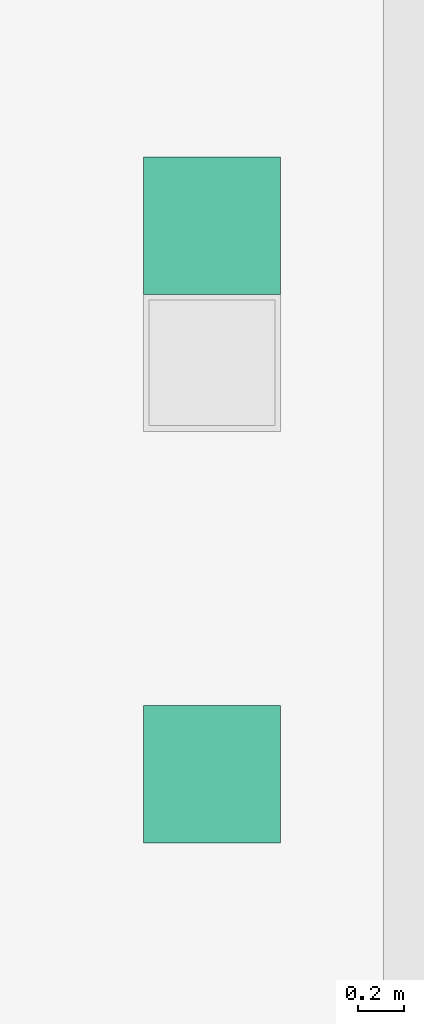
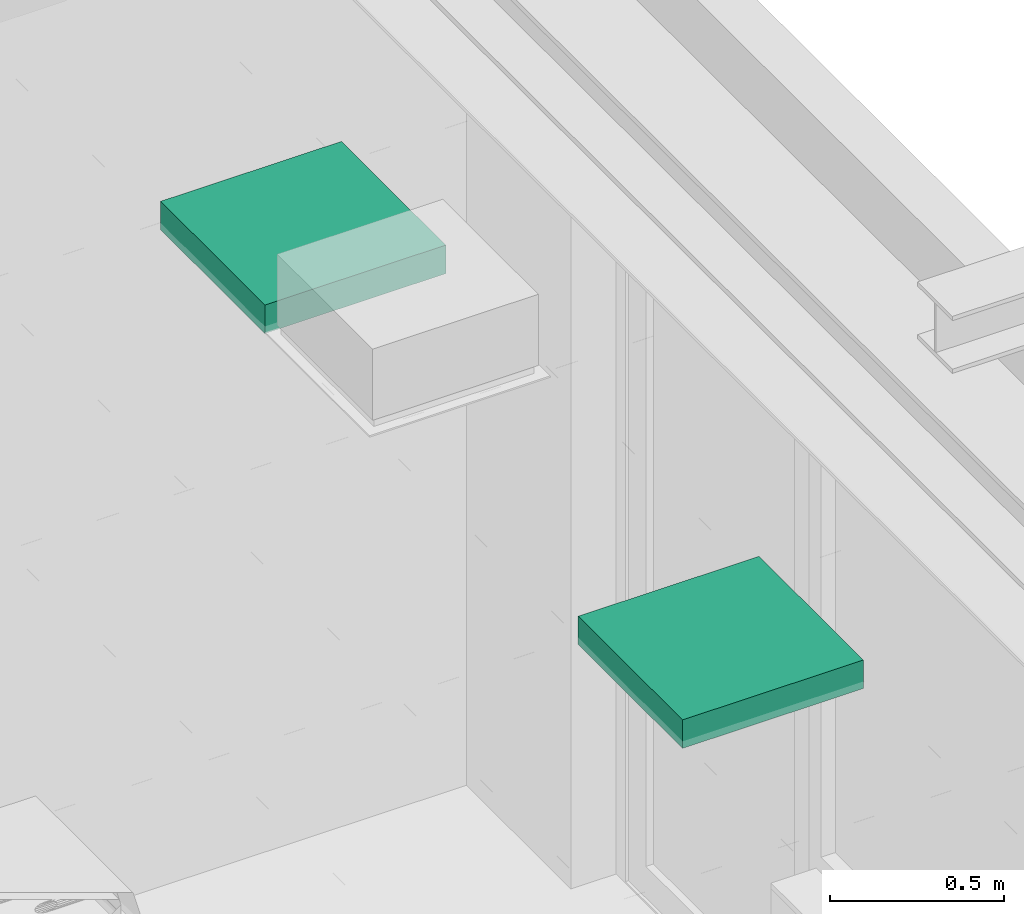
# One storey, part 271 of 347: 2 flow terminals.
"""IFC2X3 building model written with IfcOpenShell, lengths in millimetres."""

from ifc_helpers import new_model, entity, si_unit, converted_unit, derived_unit, money_unit, direction, frame, origin_with_axes, place, context, subcontext, project, spatial, open_shell, faceted_brep, surface_model, source, transform, mapped, type_object, type_shapes, element, save


model = new_model("IFC2X3")

# Units and contexts
model_context = context("Model", 3, precision=0.01, world=origin_with_axes(), true_north=direction((0.0, 1.0)))
plan_context = context("Plan", 3, precision=0.01, world=origin_with_axes(), true_north=direction((0.0, 1.0)))
body_context = subcontext(model_context, "Body", "Model", "MODEL_VIEW")
ifc_project = project(units=[si_unit("LENGTHUNIT", "METRE", prefix="MILLI"), si_unit("AREAUNIT", "SQUARE_METRE"), si_unit("VOLUMEUNIT", "CUBIC_METRE"), converted_unit("PLANEANGLEUNIT", "DEGREE", entity("IfcPlaneAngleMeasure", 0.0174532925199), si_unit("PLANEANGLEUNIT", "RADIAN"), dimensions=[0, 0, 0, 0, 0, 0, 0]), money_unit("EUR"), converted_unit("TIMEUNIT", "Year", entity("IfcTimeMeasure", 31556926.0), si_unit("TIMEUNIT", "SECOND"), dimensions=[0, 0, 1, 0, 0, 0, 0]), si_unit("MASSUNIT", "GRAM", prefix="KILO"), si_unit("THERMODYNAMICTEMPERATUREUNIT", "DEGREE_CELSIUS"), si_unit("LUMINOUSINTENSITYUNIT", "LUMEN"), si_unit("ENERGYUNIT", "JOULE", prefix="MEGA"), derived_unit("THERMALCONDUCTANCEUNIT", [(si_unit("POWERUNIT", "WATT"), 1), (si_unit("LENGTHUNIT", "METRE"), -1), (si_unit("THERMODYNAMICTEMPERATUREUNIT", "KELVIN"), -1)]), derived_unit("SPECIFICHEATCAPACITYUNIT", [(si_unit("ENERGYUNIT", "JOULE"), 1), (si_unit("MASSUNIT", "GRAM", prefix="KILO"), -1), (si_unit("THERMODYNAMICTEMPERATUREUNIT", "KELVIN"), -1)]), derived_unit("MASSDENSITYUNIT", [(si_unit("MASSUNIT", "GRAM", prefix="KILO"), 1), (si_unit("VOLUMEUNIT", "CUBIC_METRE"), -1)])], contexts=[model_context, plan_context])

# Site, building, storey
site_placement = place(None, origin_with_axes())
site = spatial("IfcSite", under=ifc_project, at=site_placement, Name="Site", CompositionType="ELEMENT")
building_placement = place(site_placement, origin_with_axes())
building = spatial("IfcBuilding", under=site, at=building_placement, Name="Naam gebouw", CompositionType="ELEMENT")
storey_placement = place(building_placement, origin_with_axes())
storey = spatial("IfcBuildingStorey", under=building, at=storey_placement, Name="begane grond", CompositionType="ELEMENT", Elevation=0.0)

# Flow terminals
lamp_type = type_object("IfcLampType", Name="TL plafond 25", PredefinedType="NOTDEFINED")
shared_shape = source(origin_with_axes(), body_context, "Body", "SurfaceModel", [
    faceted_brep([(0.0, 0.0, -100.0), (600.0, 0.0, -100.0), (600.0, 0.0, 0.0), (0.0, 0.0, 0.0), (0.0, 600.0, -100.0), (600.0, 600.0, -100.0), (40.0, 40.0, -100.0), (560.0, 40.0, -100.0), (560.0, 560.0, -100.0), (40.0, 560.0, -100.0), (600.0, 600.0, 0.0), (0.0, 600.0, 0.0), (40.0, 40.0, 0.0), (40.0, 560.0, 0.0), (560.0, 560.0, 0.0), (560.0, 40.0, 0.0)], [[[0, 1, 2, 3]], [[0, 4, 5, 1], [6, 7, 8, 9]], [[1, 5, 10, 2]], [[3, 2, 10, 11], [12, 13, 14, 15]], [[4, 0, 3, 11]], [[5, 4, 11, 10]], [[7, 6, 12, 15]], [[8, 7, 15, 14]], [[9, 8, 14, 13]], [[6, 9, 13, 12]]]),
    faceted_brep([(40.0, 40.0, -16.3333333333), (560.0, 40.0, -16.3333333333), (560.0, 40.0, 0.0), (40.0, 40.0, 0.0), (40.0, 560.0, -16.3333333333), (560.0, 560.0, -16.3333333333), (560.0, 560.0, 0.0), (40.0, 560.0, 0.0)], [[[0, 1, 2, 3]], [[0, 4, 5, 1]], [[1, 5, 6, 2]], [[3, 2, 6, 7]], [[4, 0, 3, 7]], [[5, 4, 7, 6]]]),
    surface_model("IfcShellBasedSurfaceModel", [(559.0, 41.0, -100.0), (40.0, 41.0, -100.0), (40.0, 559.0, -100.0), (559.0, 559.0, -100.0)], [open_shell([[[0, 1, 2, 3]]])]),
    faceted_brep([(40.0, 40.0, -100.0), (560.0, 40.0, -100.0), (560.0, 40.0, -60.0), (40.0, 40.0, -60.0), (40.0, 560.0, -100.0), (560.0, 560.0, -100.0), (41.0, 41.0, -100.0), (559.0, 41.0, -100.0), (559.0, 559.0, -100.0), (41.0, 559.0, -100.0), (560.0, 560.0, -60.0), (40.0, 560.0, -60.0), (41.0, 41.0, -60.0), (41.0, 559.0, -60.0), (559.0, 559.0, -60.0), (559.0, 41.0, -60.0)], [[[0, 1, 2, 3]], [[0, 4, 5, 1], [6, 7, 8, 9]], [[1, 5, 10, 2]], [[3, 2, 10, 11], [12, 13, 14, 15]], [[4, 0, 3, 11]], [[5, 4, 11, 10]], [[7, 6, 12, 15]], [[8, 7, 15, 14]], [[9, 8, 14, 13]], [[6, 9, 13, 12]]]),
    faceted_brep([(40.0, 144.0, -48.3333333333), (40.0, 149.740251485, -47.191526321), (560.0, 149.740251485, -47.191526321), (560.0, 144.0, -48.3333333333), (40.0, 138.259748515, -47.191526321), (40.0, 133.393398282, -43.9399350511), (40.0, 130.141807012, -39.0735848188), (40.0, 129.0, -33.3333333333), (40.0, 130.141807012, -27.5930818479), (40.0, 133.393398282, -22.7267316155), (40.0, 138.259748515, -19.4751403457), (40.0, 144.0, -18.3333333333), (40.0, 149.740251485, -19.4751403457), (40.0, 154.606601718, -22.7267316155), (40.0, 157.858192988, -27.5930818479), (40.0, 159.0, -33.3333333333), (40.0, 157.858192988, -39.0735848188), (40.0, 154.606601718, -43.9399350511), (40.0, 144.0, -46.3333333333), (40.0, 148.974884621, -45.343767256), (40.0, 153.192388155, -42.5257214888), (40.0, 156.010433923, -38.3082179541), (40.0, 157.0, -33.3333333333), (40.0, 156.010433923, -28.3584487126), (40.0, 153.192388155, -24.1409451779), (40.0, 148.974884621, -21.3228994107), (40.0, 144.0, -20.3333333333), (40.0, 139.025115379, -21.3228994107), (40.0, 134.807611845, -24.1409451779), (40.0, 131.989566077, -28.3584487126), (40.0, 131.0, -33.3333333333), (40.0, 131.989566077, -38.3082179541), (40.0, 134.807611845, -42.5257214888), (40.0, 139.025115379, -45.343767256), (560.0, 154.606601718, -43.9399350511), (560.0, 157.858192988, -39.0735848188), (560.0, 159.0, -33.3333333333), (560.0, 157.858192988, -27.5930818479), (560.0, 154.606601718, -22.7267316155), (560.0, 149.740251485, -19.4751403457), (560.0, 144.0, -18.3333333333), (560.0, 138.259748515, -19.4751403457), (560.0, 133.393398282, -22.7267316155), (560.0, 130.141807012, -27.5930818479), (560.0, 129.0, -33.3333333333), (560.0, 130.141807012, -39.0735848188), (560.0, 133.393398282, -43.9399350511), (560.0, 138.259748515, -47.191526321), (560.0, 144.0, -46.3333333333), (560.0, 139.025115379, -45.343767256), (560.0, 134.807611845, -42.5257214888), (560.0, 131.989566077, -38.3082179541), (560.0, 131.0, -33.3333333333), (560.0, 131.989566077, -28.3584487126), (560.0, 134.807611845, -24.1409451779), (560.0, 139.025115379, -21.3228994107), (560.0, 144.0, -20.3333333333), (560.0, 148.974884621, -21.3228994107), (560.0, 153.192388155, -24.1409451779), (560.0, 156.010433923, -28.3584487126), (560.0, 157.0, -33.3333333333), (560.0, 156.010433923, -38.3082179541), (560.0, 153.192388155, -42.5257214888), (560.0, 148.974884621, -45.343767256)], [[[0, 1, 2, 3]], [[0, 4, 5, 6, 7, 8, 9, 10, 11, 12, 13, 14, 15, 16, 17, 1], [18, 19, 20, 21, 22, 23, 24, 25, 26, 27, 28, 29, 30, 31, 32, 33]], [[1, 17, 34, 2]], [[3, 2, 34, 35, 36, 37, 38, 39, 40, 41, 42, 43, 44, 45, 46, 47], [48, 49, 50, 51, 52, 53, 54, 55, 56, 57, 58, 59, 60, 61, 62, 63]], [[4, 0, 3, 47]], [[5, 4, 47, 46]], [[6, 5, 46, 45]], [[7, 6, 45, 44]], [[8, 7, 44, 43]], [[9, 8, 43, 42]], [[10, 9, 42, 41]], [[11, 10, 41, 40]], [[12, 11, 40, 39]], [[13, 12, 39, 38]], [[14, 13, 38, 37]], [[15, 14, 37, 36]], [[16, 15, 36, 35]], [[17, 16, 35, 34]], [[19, 18, 48, 63]], [[20, 19, 63, 62]], [[21, 20, 62, 61]], [[22, 21, 61, 60]], [[23, 22, 60, 59]], [[24, 23, 59, 58]], [[25, 24, 58, 57]], [[26, 25, 57, 56]], [[27, 26, 56, 55]], [[28, 27, 55, 54]], [[29, 28, 54, 53]], [[30, 29, 53, 52]], [[31, 30, 52, 51]], [[32, 31, 51, 50]], [[33, 32, 50, 49]], [[18, 33, 49, 48]]]),
    faceted_brep([(40.0, 248.0, -48.3333333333), (40.0, 253.740251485, -47.191526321), (560.0, 253.740251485, -47.191526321), (560.0, 248.0, -48.3333333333), (40.0, 242.259748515, -47.191526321), (40.0, 237.393398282, -43.9399350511), (40.0, 234.141807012, -39.0735848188), (40.0, 233.0, -33.3333333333), (40.0, 234.141807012, -27.5930818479), (40.0, 237.393398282, -22.7267316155), (40.0, 242.259748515, -19.4751403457), (40.0, 248.0, -18.3333333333), (40.0, 253.740251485, -19.4751403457), (40.0, 258.606601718, -22.7267316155), (40.0, 261.858192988, -27.5930818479), (40.0, 263.0, -33.3333333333), (40.0, 261.858192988, -39.0735848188), (40.0, 258.606601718, -43.9399350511), (40.0, 248.0, -46.3333333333), (40.0, 252.974884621, -45.343767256), (40.0, 257.192388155, -42.5257214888), (40.0, 260.010433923, -38.3082179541), (40.0, 261.0, -33.3333333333), (40.0, 260.010433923, -28.3584487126), (40.0, 257.192388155, -24.1409451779), (40.0, 252.974884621, -21.3228994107), (40.0, 248.0, -20.3333333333), (40.0, 243.025115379, -21.3228994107), (40.0, 238.807611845, -24.1409451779), (40.0, 235.989566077, -28.3584487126), (40.0, 235.0, -33.3333333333), (40.0, 235.989566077, -38.3082179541), (40.0, 238.807611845, -42.5257214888), (40.0, 243.025115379, -45.343767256), (560.0, 258.606601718, -43.9399350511), (560.0, 261.858192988, -39.0735848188), (560.0, 263.0, -33.3333333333), (560.0, 261.858192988, -27.5930818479), (560.0, 258.606601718, -22.7267316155), (560.0, 253.740251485, -19.4751403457), (560.0, 248.0, -18.3333333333), (560.0, 242.259748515, -19.4751403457), (560.0, 237.393398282, -22.7267316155), (560.0, 234.141807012, -27.5930818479), (560.0, 233.0, -33.3333333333), (560.0, 234.141807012, -39.0735848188), (560.0, 237.393398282, -43.9399350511), (560.0, 242.259748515, -47.191526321), (560.0, 248.0, -46.3333333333), (560.0, 243.025115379, -45.343767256), (560.0, 238.807611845, -42.5257214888), (560.0, 235.989566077, -38.3082179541), (560.0, 235.0, -33.3333333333), (560.0, 235.989566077, -28.3584487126), (560.0, 238.807611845, -24.1409451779), (560.0, 243.025115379, -21.3228994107), (560.0, 248.0, -20.3333333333), (560.0, 252.974884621, -21.3228994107), (560.0, 257.192388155, -24.1409451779), (560.0, 260.010433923, -28.3584487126), (560.0, 261.0, -33.3333333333), (560.0, 260.010433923, -38.3082179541), (560.0, 257.192388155, -42.5257214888), (560.0, 252.974884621, -45.343767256)], [[[0, 1, 2, 3]], [[0, 4, 5, 6, 7, 8, 9, 10, 11, 12, 13, 14, 15, 16, 17, 1], [18, 19, 20, 21, 22, 23, 24, 25, 26, 27, 28, 29, 30, 31, 32, 33]], [[1, 17, 34, 2]], [[3, 2, 34, 35, 36, 37, 38, 39, 40, 41, 42, 43, 44, 45, 46, 47], [48, 49, 50, 51, 52, 53, 54, 55, 56, 57, 58, 59, 60, 61, 62, 63]], [[4, 0, 3, 47]], [[5, 4, 47, 46]], [[6, 5, 46, 45]], [[7, 6, 45, 44]], [[8, 7, 44, 43]], [[9, 8, 43, 42]], [[10, 9, 42, 41]], [[11, 10, 41, 40]], [[12, 11, 40, 39]], [[13, 12, 39, 38]], [[14, 13, 38, 37]], [[15, 14, 37, 36]], [[16, 15, 36, 35]], [[17, 16, 35, 34]], [[19, 18, 48, 63]], [[20, 19, 63, 62]], [[21, 20, 62, 61]], [[22, 21, 61, 60]], [[23, 22, 60, 59]], [[24, 23, 59, 58]], [[25, 24, 58, 57]], [[26, 25, 57, 56]], [[27, 26, 56, 55]], [[28, 27, 55, 54]], [[29, 28, 54, 53]], [[30, 29, 53, 52]], [[31, 30, 52, 51]], [[32, 31, 51, 50]], [[33, 32, 50, 49]], [[18, 33, 49, 48]]]),
    faceted_brep([(40.0, 352.0, -48.3333333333), (40.0, 357.740251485, -47.191526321), (560.0, 357.740251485, -47.191526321), (560.0, 352.0, -48.3333333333), (40.0, 346.259748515, -47.191526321), (40.0, 341.393398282, -43.9399350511), (40.0, 338.141807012, -39.0735848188), (40.0, 337.0, -33.3333333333), (40.0, 338.141807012, -27.5930818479), (40.0, 341.393398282, -22.7267316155), (40.0, 346.259748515, -19.4751403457), (40.0, 352.0, -18.3333333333), (40.0, 357.740251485, -19.4751403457), (40.0, 362.606601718, -22.7267316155), (40.0, 365.858192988, -27.5930818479), (40.0, 367.0, -33.3333333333), (40.0, 365.858192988, -39.0735848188), (40.0, 362.606601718, -43.9399350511), (40.0, 352.0, -46.3333333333), (40.0, 356.974884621, -45.343767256), (40.0, 361.192388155, -42.5257214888), (40.0, 364.010433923, -38.3082179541), (40.0, 365.0, -33.3333333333), (40.0, 364.010433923, -28.3584487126), (40.0, 361.192388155, -24.1409451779), (40.0, 356.974884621, -21.3228994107), (40.0, 352.0, -20.3333333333), (40.0, 347.025115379, -21.3228994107), (40.0, 342.807611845, -24.1409451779), (40.0, 339.989566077, -28.3584487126), (40.0, 339.0, -33.3333333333), (40.0, 339.989566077, -38.3082179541), (40.0, 342.807611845, -42.5257214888), (40.0, 347.025115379, -45.343767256), (560.0, 362.606601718, -43.9399350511), (560.0, 365.858192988, -39.0735848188), (560.0, 367.0, -33.3333333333), (560.0, 365.858192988, -27.5930818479), (560.0, 362.606601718, -22.7267316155), (560.0, 357.740251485, -19.4751403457), (560.0, 352.0, -18.3333333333), (560.0, 346.259748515, -19.4751403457), (560.0, 341.393398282, -22.7267316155), (560.0, 338.141807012, -27.5930818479), (560.0, 337.0, -33.3333333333), (560.0, 338.141807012, -39.0735848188), (560.0, 341.393398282, -43.9399350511), (560.0, 346.259748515, -47.191526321), (560.0, 352.0, -46.3333333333), (560.0, 347.025115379, -45.343767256), (560.0, 342.807611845, -42.5257214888), (560.0, 339.989566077, -38.3082179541), (560.0, 339.0, -33.3333333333), (560.0, 339.989566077, -28.3584487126), (560.0, 342.807611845, -24.1409451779), (560.0, 347.025115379, -21.3228994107), (560.0, 352.0, -20.3333333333), (560.0, 356.974884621, -21.3228994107), (560.0, 361.192388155, -24.1409451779), (560.0, 364.010433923, -28.3584487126), (560.0, 365.0, -33.3333333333), (560.0, 364.010433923, -38.3082179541), (560.0, 361.192388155, -42.5257214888), (560.0, 356.974884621, -45.343767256)], [[[0, 1, 2, 3]], [[0, 4, 5, 6, 7, 8, 9, 10, 11, 12, 13, 14, 15, 16, 17, 1], [18, 19, 20, 21, 22, 23, 24, 25, 26, 27, 28, 29, 30, 31, 32, 33]], [[1, 17, 34, 2]], [[3, 2, 34, 35, 36, 37, 38, 39, 40, 41, 42, 43, 44, 45, 46, 47], [48, 49, 50, 51, 52, 53, 54, 55, 56, 57, 58, 59, 60, 61, 62, 63]], [[4, 0, 3, 47]], [[5, 4, 47, 46]], [[6, 5, 46, 45]], [[7, 6, 45, 44]], [[8, 7, 44, 43]], [[9, 8, 43, 42]], [[10, 9, 42, 41]], [[11, 10, 41, 40]], [[12, 11, 40, 39]], [[13, 12, 39, 38]], [[14, 13, 38, 37]], [[15, 14, 37, 36]], [[16, 15, 36, 35]], [[17, 16, 35, 34]], [[19, 18, 48, 63]], [[20, 19, 63, 62]], [[21, 20, 62, 61]], [[22, 21, 61, 60]], [[23, 22, 60, 59]], [[24, 23, 59, 58]], [[25, 24, 58, 57]], [[26, 25, 57, 56]], [[27, 26, 56, 55]], [[28, 27, 55, 54]], [[29, 28, 54, 53]], [[30, 29, 53, 52]], [[31, 30, 52, 51]], [[32, 31, 51, 50]], [[33, 32, 50, 49]], [[18, 33, 49, 48]]]),
    faceted_brep([(40.0, 456.0, -48.3333333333), (40.0, 461.740251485, -47.191526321), (560.0, 461.740251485, -47.191526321), (560.0, 456.0, -48.3333333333), (40.0, 450.259748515, -47.191526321), (40.0, 445.393398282, -43.9399350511), (40.0, 442.141807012, -39.0735848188), (40.0, 441.0, -33.3333333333), (40.0, 442.141807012, -27.5930818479), (40.0, 445.393398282, -22.7267316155), (40.0, 450.259748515, -19.4751403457), (40.0, 456.0, -18.3333333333), (40.0, 461.740251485, -19.4751403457), (40.0, 466.606601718, -22.7267316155), (40.0, 469.858192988, -27.5930818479), (40.0, 471.0, -33.3333333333), (40.0, 469.858192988, -39.0735848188), (40.0, 466.606601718, -43.9399350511), (40.0, 456.0, -46.3333333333), (40.0, 460.974884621, -45.343767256), (40.0, 465.192388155, -42.5257214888), (40.0, 468.010433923, -38.3082179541), (40.0, 469.0, -33.3333333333), (40.0, 468.010433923, -28.3584487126), (40.0, 465.192388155, -24.1409451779), (40.0, 460.974884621, -21.3228994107), (40.0, 456.0, -20.3333333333), (40.0, 451.025115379, -21.3228994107), (40.0, 446.807611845, -24.1409451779), (40.0, 443.989566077, -28.3584487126), (40.0, 443.0, -33.3333333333), (40.0, 443.989566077, -38.3082179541), (40.0, 446.807611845, -42.5257214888), (40.0, 451.025115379, -45.343767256), (560.0, 466.606601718, -43.9399350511), (560.0, 469.858192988, -39.0735848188), (560.0, 471.0, -33.3333333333), (560.0, 469.858192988, -27.5930818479), (560.0, 466.606601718, -22.7267316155), (560.0, 461.740251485, -19.4751403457), (560.0, 456.0, -18.3333333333), (560.0, 450.259748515, -19.4751403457), (560.0, 445.393398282, -22.7267316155), (560.0, 442.141807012, -27.5930818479), (560.0, 441.0, -33.3333333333), (560.0, 442.141807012, -39.0735848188), (560.0, 445.393398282, -43.9399350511), (560.0, 450.259748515, -47.191526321), (560.0, 456.0, -46.3333333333), (560.0, 451.025115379, -45.343767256), (560.0, 446.807611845, -42.5257214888), (560.0, 443.989566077, -38.3082179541), (560.0, 443.0, -33.3333333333), (560.0, 443.989566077, -28.3584487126), (560.0, 446.807611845, -24.1409451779), (560.0, 451.025115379, -21.3228994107), (560.0, 456.0, -20.3333333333), (560.0, 460.974884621, -21.3228994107), (560.0, 465.192388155, -24.1409451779), (560.0, 468.010433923, -28.3584487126), (560.0, 469.0, -33.3333333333), (560.0, 468.010433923, -38.3082179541), (560.0, 465.192388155, -42.5257214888), (560.0, 460.974884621, -45.343767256)], [[[0, 1, 2, 3]], [[0, 4, 5, 6, 7, 8, 9, 10, 11, 12, 13, 14, 15, 16, 17, 1], [18, 19, 20, 21, 22, 23, 24, 25, 26, 27, 28, 29, 30, 31, 32, 33]], [[1, 17, 34, 2]], [[3, 2, 34, 35, 36, 37, 38, 39, 40, 41, 42, 43, 44, 45, 46, 47], [48, 49, 50, 51, 52, 53, 54, 55, 56, 57, 58, 59, 60, 61, 62, 63]], [[4, 0, 3, 47]], [[5, 4, 47, 46]], [[6, 5, 46, 45]], [[7, 6, 45, 44]], [[8, 7, 44, 43]], [[9, 8, 43, 42]], [[10, 9, 42, 41]], [[11, 10, 41, 40]], [[12, 11, 40, 39]], [[13, 12, 39, 38]], [[14, 13, 38, 37]], [[15, 14, 37, 36]], [[16, 15, 36, 35]], [[17, 16, 35, 34]], [[19, 18, 48, 63]], [[20, 19, 63, 62]], [[21, 20, 62, 61]], [[22, 21, 61, 60]], [[23, 22, 60, 59]], [[24, 23, 59, 58]], [[25, 24, 58, 57]], [[26, 25, 57, 56]], [[27, 26, 56, 55]], [[28, 27, 55, 54]], [[29, 28, 54, 53]], [[30, 29, 53, 52]], [[31, 30, 52, 51]], [[32, 31, 51, 50]], [[33, 32, 50, 49]], [[18, 33, 49, 48]]]),
])
type_shapes(lamp_type, [shared_shape])
for number, where, z_axis, x_axis, name in (
    (1, (54225.0, 26212.5, 3295.0), (0.0, 0.0, 1.0), (1.0, 0.0, 0.0), "63_Lamp-x"),
    (2, (54225.0, 23812.5, 3295.0), (0.0, 0.0, 1.0), (1.0, 0.0, 0.0), "63_Lamp-x"),
):
    element("IfcFlowTerminal", number, at=place(storey_placement, frame(where, z_axis=z_axis, x_axis=x_axis)), inside=storey, type_object=lamp_type, Name=name, ObjectType="Lamp", context=body_context, shape_type="MappedRepresentation", body=[
        mapped(shared_shape, transform((0.0, 0.0, 0.0))),
    ])

save(model, "model.ifc")
